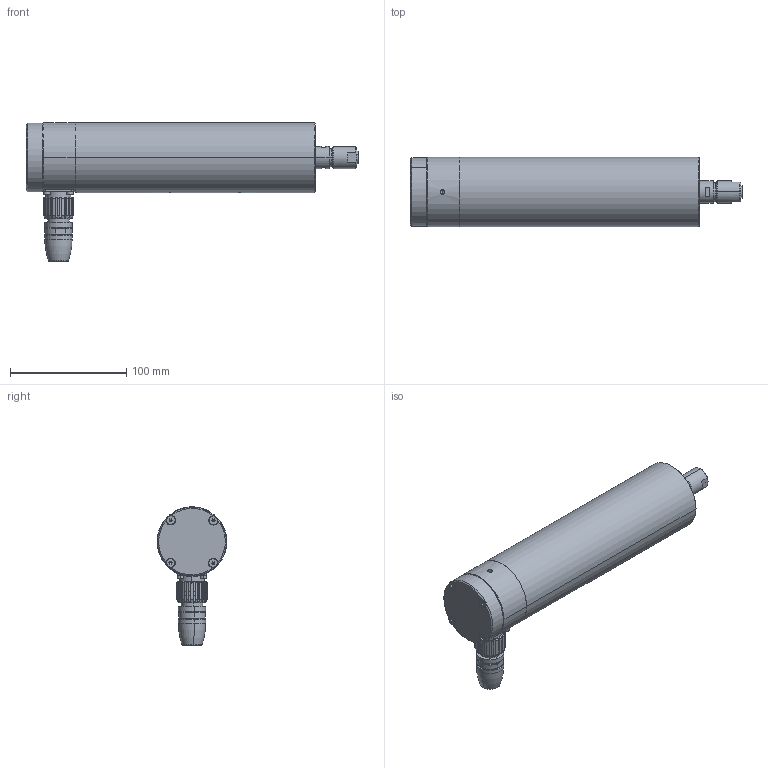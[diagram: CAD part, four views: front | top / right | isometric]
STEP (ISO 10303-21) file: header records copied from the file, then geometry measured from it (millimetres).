
FILE_DESCRIPTION (( 'STEP AP214' ), '1' );
FILE_NAME ('3d_S27-40PAC.STEP', '2016-09-01T07:57:45', ( '' ), ( '' ), 'SwSTEP 2.0', 'SolidWorks 2016', '' );
FILE_SCHEMA (( 'AUTOMOTIVE_DESIGN' ));
Length unit declared in the file: millimetre
Products named in the file (15): 27422 P; 27424-80_graverad; EMC2 FM; socket head cap screw_iso_ISO 4762 M3 x 8 --- 8N; 17571; socket countersunk head screw_iso_ISO 10642 - M4 x 8 --- 8N; 17570; 27501; 911 003 4009; phoenix contact; 17502; 27150 LP-AC; 3d_S27-40PAC; 27150 AC EMC; 27010 P_Bearbetad
Assembly tree (20 placements, depth 3):
  3d_S27-40PAC
    27010 P_Bearbetad
      27424-80_graverad
      27422 P
    27501
    911 003 4009
    17571
      17570
      17502
    EMC2 FM
      phoenix contact
    27150 AC EMC
    27150 LP-AC
    socket countersunk head screw_iso_ISO 10642 - M4 x 8 --- 8N  x4
    socket head cap screw_iso_ISO 4762 M3 x 8 --- 8N  x4
Bounding box: 285.58 x 60 x 119.1 mm (x, y, z)
Volume: 245561.8 mm3; surface area: 140001.9 mm2
Topology: 17 solids, 17 shells, 710 faces, 1720 edges, 1053 vertices
Faces by surface type: cylinder 282, plane 256, cone 124, torus 48
Entity records: 19441 total; most frequent: CARTESIAN_POINT 5168, DIRECTION 2928, ORIENTED_EDGE 2728, EDGE_CURVE 1364, AXIS2_PLACEMENT_3D 1193, VERTEX_POINT 861, EDGE_LOOP 659, CIRCLE 616
